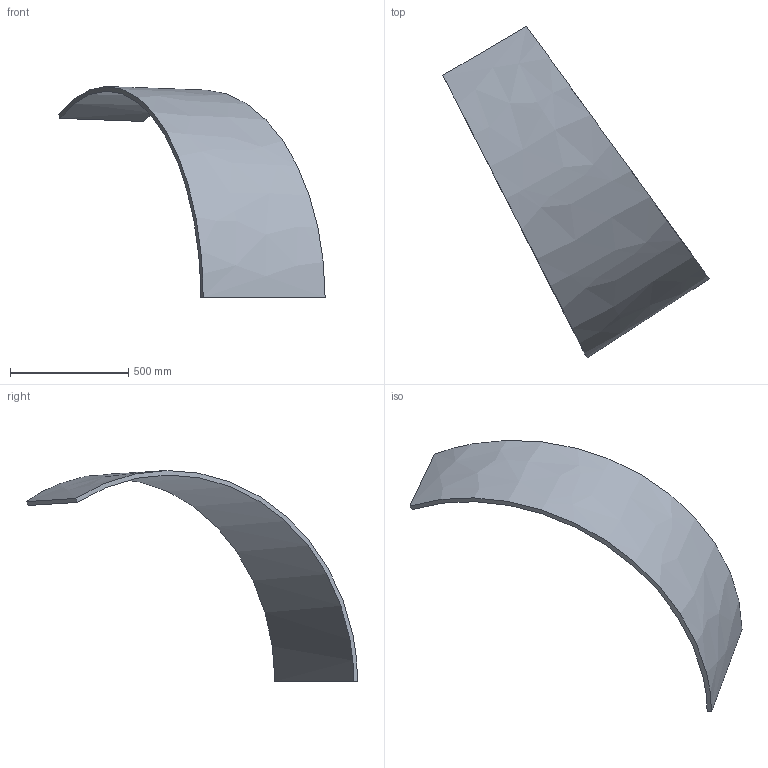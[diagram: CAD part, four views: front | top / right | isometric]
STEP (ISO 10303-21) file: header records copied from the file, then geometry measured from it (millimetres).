
FILE_DESCRIPTION (( 'STEP AP214' ), '1' );
FILE_NAME ('Section 10-C.STEP', '2025-01-09T19:43:27', ( '' ), ( '' ), 'SwSTEP 2.0', 'SolidWorks 2024', '' );
FILE_SCHEMA (( 'AUTOMOTIVE_DESIGN' ));
Length unit declared in the file: inch
Products named in the file (1): Section 10-C
Bounding box: 1127.01 x 1402.34 x 892.9 mm (x, y, z)
Volume: 18669022.1 mm3; surface area: 2049231 mm2
Topology: 1 solids, 1 shells, 6 faces, 12 edges, 8 vertices
Faces by surface type: bspline 6
Entity records: 315 total; most frequent: CARTESIAN_POINT 201, ORIENTED_EDGE 24, B_SPLINE_CURVE_WITH_KNOTS 12, EDGE_CURVE 12, VERTEX_POINT 8, B_SPLINE_SURFACE_WITH_KNOTS 6, FACE_OUTER_BOUND 6, EDGE_LOOP 6
